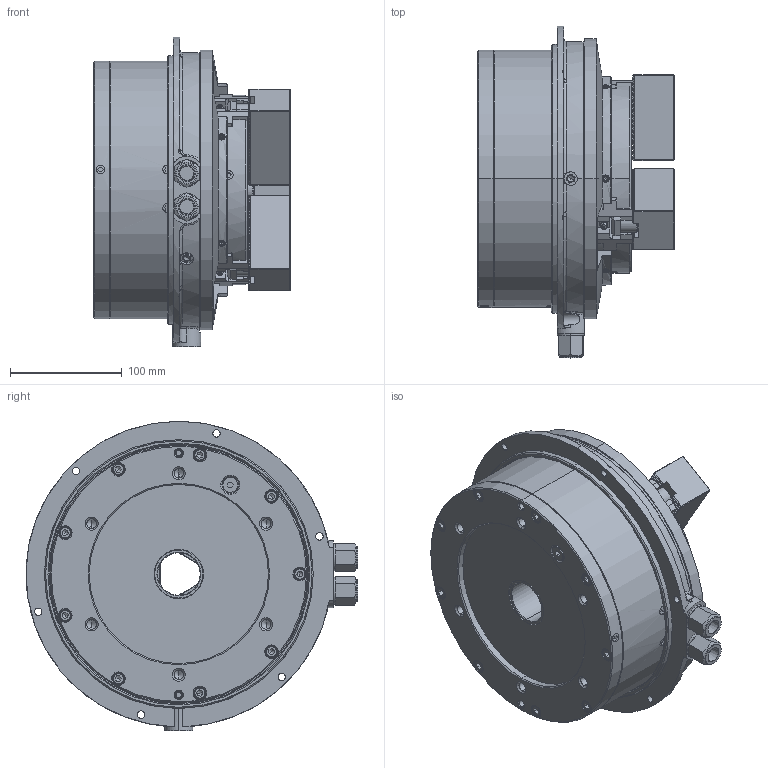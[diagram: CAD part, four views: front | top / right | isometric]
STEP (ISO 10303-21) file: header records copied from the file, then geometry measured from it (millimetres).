
FILE_DESCRIPTION (( 'STEP AP214' ), '1' );
FILE_NAME ('DEV-UVE160K-UC.STEP', '2024-10-02T07:22:37', ( '' ), ( '' ), 'SwSTEP 2.0', 'SolidWorks 2022', '' );
FILE_SCHEMA (( 'AUTOMOTIVE_DESIGN' ));
Length unit declared in the file: millimetre
Products named in the file (6): Part2^DEV-UVE160K-クミタテ; DEV-UVE160K-UC; Copy of 0030112030^DEV-UVE160K-クミタテ; Copy of 0693000003^DEV-UVE160K-クミタテ; Copy of 61P853952^DEV-UVE160K-クミタテ; Copy of 61P401345^DEV-UVE160K-クミタテ
Assembly tree (18 placements, depth 2):
  DEV-UVE160K-UC
    Copy of 61P853952^DEV-UVE160K-クミタテ  x3
    Copy of 61P401345^DEV-UVE160K-クミタテ  x6
    Copy of 0030112030^DEV-UVE160K-クミタテ  x6
    Copy of 0693000003^DEV-UVE160K-クミタテ  x2
    Part2^DEV-UVE160K-クミタテ
Bounding box: 175.45 x 296.49 x 276.5 mm (x, y, z)
Volume: 5501493.6 mm3; surface area: 416993.1 mm2
Topology: 18 solids, 47 shells, 4878 faces, 13509 edges, 8803 vertices
Faces by surface type: plane 2802, cylinder 1260, cone 473, bspline 272, torus 51, sphere 20
Entity records: 127395 total; most frequent: CARTESIAN_POINT 40121, ORIENTED_EDGE 19744, DIRECTION 15816, EDGE_CURVE 9872, VERTEX_POINT 6460, VECTOR 6444, LINE 6444, AXIS2_PLACEMENT_3D 4686
